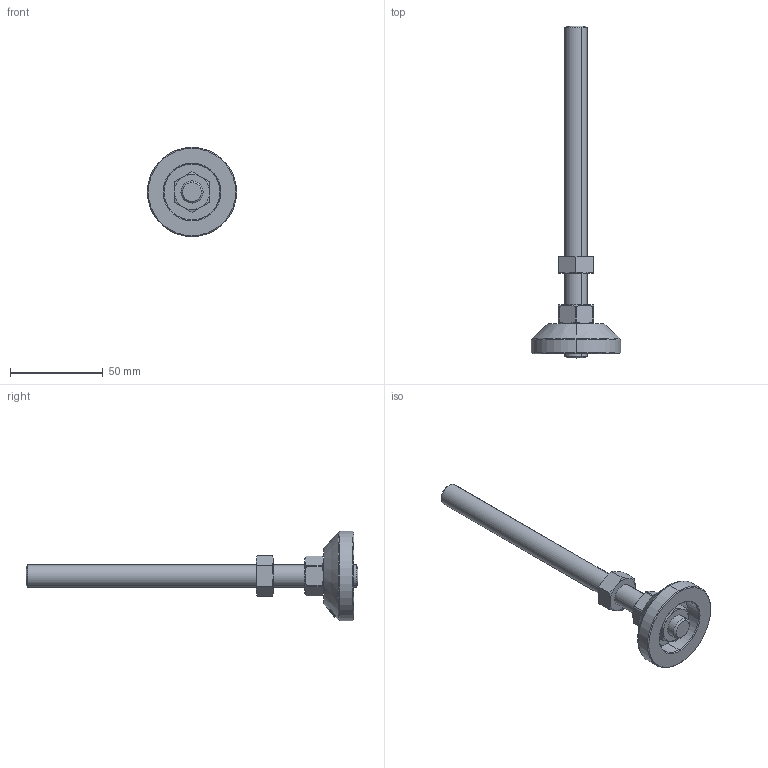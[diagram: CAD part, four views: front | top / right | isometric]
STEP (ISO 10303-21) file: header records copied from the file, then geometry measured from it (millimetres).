
FILE_DESCRIPTION (( 'STEP AP203' ), '1' );
FILE_NAME ('M-50-12150-S.STEP', '2020-09-10T06:56:58', ( '' ), ( '' ), 'SwSTEP 2.0', 'SolidWorks 2016', '' );
FILE_SCHEMA (( 'CONFIG_CONTROL_DESIGN' ));
Length unit declared in the file: millimetre
Products named in the file (5): M-50-1褐菜; 脚垫调节六角螺母M12; 不锈钢双头螺栓M12系列_M12X150; 脚垫锁紧六角薄螺母M12; M-50-12150-S
Assembly tree (4 placements, depth 2):
  M-50-12150-S
    M-50-1褐菜
    不锈钢双头螺栓M12系列_M12X150
    脚垫锁紧六角薄螺母M12
    脚垫调节六角螺母M12
Bounding box: 48 x 178.5 x 48 mm (x, y, z)
Volume: 42571 mm3; surface area: 15840.3 mm2
Topology: 4 solids, 4 shells, 150 faces, 354 edges, 220 vertices
Faces by surface type: cone 63, bspline 38, plane 29, cylinder 20
Entity records: 8000 total; most frequent: CARTESIAN_POINT 4432, ORIENTED_EDGE 708, DIRECTION 502, EDGE_CURVE 354, VERTEX_POINT 220, AXIS2_PLACEMENT_3D 215, B_SPLINE_CURVE_WITH_KNOTS 186, EDGE_LOOP 164
